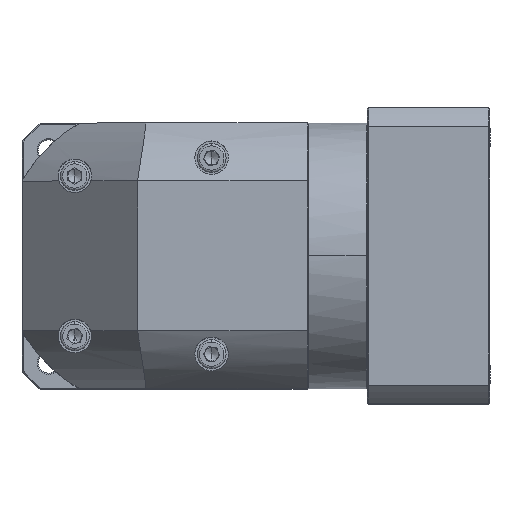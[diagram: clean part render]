
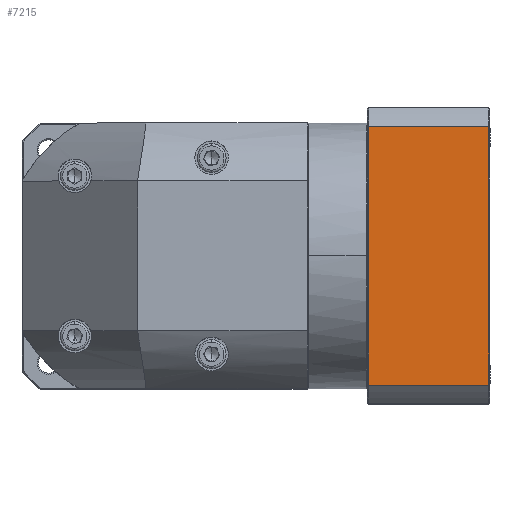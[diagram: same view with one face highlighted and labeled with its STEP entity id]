
A CAD part, top view. The second image highlights one B-rep face of the part: STEP entity #7215.
In plain terms, the highlighted planar face has unit normal (0, 0, 1).
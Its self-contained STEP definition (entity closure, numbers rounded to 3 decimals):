
#4552 = CARTESIAN_POINT ( 'NONE',  ( -114.602, 131.474, 77.821 ) ) ;
#7215 = ADVANCED_FACE ( 'NONE', ( #92059 ), #20239, .F. ) ;
#7596 = LINE ( 'NONE', #4552, #72563 ) ;
#7779 = ORIENTED_EDGE ( 'NONE', *, *, #20135, .F. ) ;
#12927 = VERTEX_POINT ( 'NONE', #77518 ) ;
#14156 = VECTOR ( 'NONE', #22245, 1000. ) ;
#20135 = EDGE_CURVE ( 'NONE', #56796, #93176, #26430, .T. ) ;
#20239 = PLANE ( 'NONE',  #88377 ) ;
#22245 = DIRECTION ( 'NONE',  ( 0., 1., 0. ) ) ;
#22724 = CARTESIAN_POINT ( 'NONE',  ( 128.718, 139.537, 77.821 ) ) ;
#22878 = LINE ( 'NONE', #120534, #67963 ) ;
#26430 = LINE ( 'NONE', #64454, #136508 ) ;
#27437 = CARTESIAN_POINT ( 'NONE',  ( 180.718, 19.599, 77.821 ) ) ;
#37631 = EDGE_CURVE ( 'NONE', #93176, #12927, #132620, .T. ) ;
#42614 = CARTESIAN_POINT ( 'NONE',  ( 181.218, 139.537, 77.821 ) ) ;
#47397 = DIRECTION ( 'NONE',  ( 1., 0., 0. ) ) ;
#56796 = VERTEX_POINT ( 'NONE', #27437 ) ;
#59797 = ORIENTED_EDGE ( 'NONE', *, *, #37631, .F. ) ;
#64454 = CARTESIAN_POINT ( 'NONE',  ( -114.602, 19.599, 77.821 ) ) ;
#67963 = VECTOR ( 'NONE', #98095, 1000. ) ;
#70615 = EDGE_CURVE ( 'NONE', #137589, #56796, #22878, .T. ) ;
#72563 = VECTOR ( 'NONE', #47397, 1000. ) ;
#76903 = DIRECTION ( 'NONE',  ( -1., 0., 0. ) ) ;
#77518 = CARTESIAN_POINT ( 'NONE',  ( 128.718, 131.474, 77.821 ) ) ;
#85600 = CARTESIAN_POINT ( 'NONE',  ( 128.718, 19.599, 77.821 ) ) ;
#88377 = AXIS2_PLACEMENT_3D ( 'NONE', #42614, #126908, #116587 ) ;
#92059 = FACE_OUTER_BOUND ( 'NONE', #117756, .T. ) ;
#93176 = VERTEX_POINT ( 'NONE', #85600 ) ;
#98095 = DIRECTION ( 'NONE',  ( 0., -1., 0. ) ) ;
#107550 = CARTESIAN_POINT ( 'NONE',  ( 180.718, 131.474, 77.821 ) ) ;
#111104 = ORIENTED_EDGE ( 'NONE', *, *, #116640, .F. ) ;
#116117 = ORIENTED_EDGE ( 'NONE', *, *, #70615, .F. ) ;
#116587 = DIRECTION ( 'NONE',  ( 0., -1., 0. ) ) ;
#116640 = EDGE_CURVE ( 'NONE', #12927, #137589, #7596, .T. ) ;
#117756 = EDGE_LOOP ( 'NONE', ( #111104, #59797, #7779, #116117 ) ) ;
#120534 = CARTESIAN_POINT ( 'NONE',  ( 180.718, 139.537, 77.821 ) ) ;
#126908 = DIRECTION ( 'NONE',  ( 0., 0., -1. ) ) ;
#132620 = LINE ( 'NONE', #22724, #14156 ) ;
#136508 = VECTOR ( 'NONE', #76903, 1000. ) ;
#137589 = VERTEX_POINT ( 'NONE', #107550 ) ;
